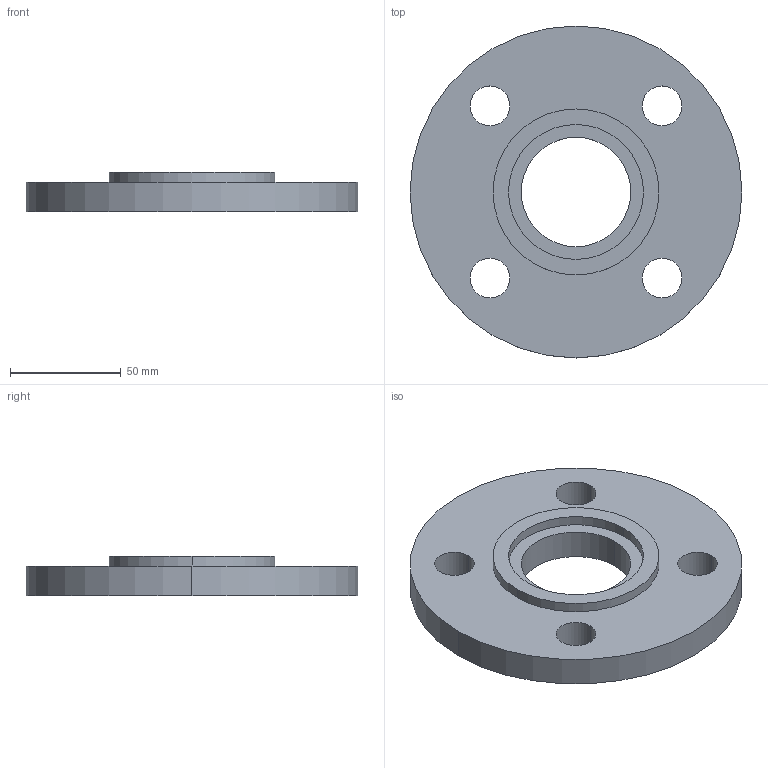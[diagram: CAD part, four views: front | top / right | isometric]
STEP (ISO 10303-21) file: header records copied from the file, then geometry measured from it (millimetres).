
FILE_DESCRIPTION (( 'STEP AP214' ), '1' );
FILE_NAME ('PN40 DN40 Type 01 - Type C Face.STEP', '2018-12-30T02:33:30', ( '' ), ( '' ), 'SwSTEP 2.0', 'SolidWorks 2019', '' );
FILE_SCHEMA (( 'AUTOMOTIVE_DESIGN' ));
Length unit declared in the file: millimetre
Products named in the file (1): PN40 DN40 Type 01 - Type C Face
Bounding box: 150 x 150 x 18 mm (x, y, z)
Volume: 205573 mm3; surface area: 42895.7 mm2
Topology: 1 solids, 1 shells, 20 faces, 48 edges, 32 vertices
Faces by surface type: cylinder 16, plane 4
Entity records: 658 total; most frequent: DIRECTION 122, CARTESIAN_POINT 101, ORIENTED_EDGE 96, AXIS2_PLACEMENT_3D 53, EDGE_CURVE 48, CIRCLE 32, VERTEX_POINT 32, EDGE_LOOP 32
